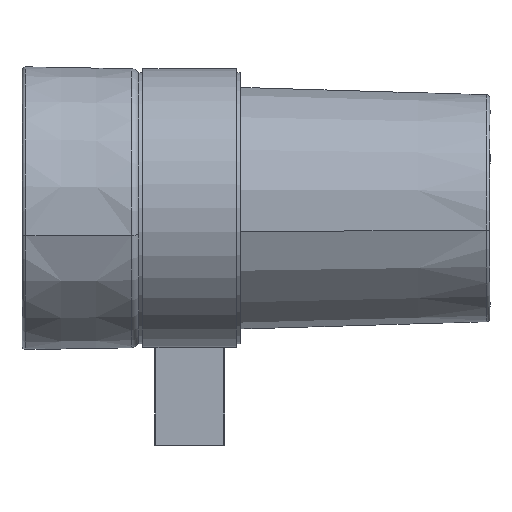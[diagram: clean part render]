
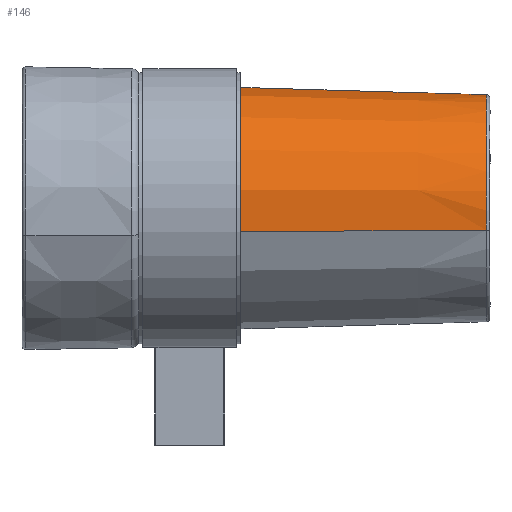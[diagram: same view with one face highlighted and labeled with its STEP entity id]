
A CAD part, left-side view. The second image highlights one B-rep face of the part: STEP entity #146.
In plain terms, the highlighted conical face has half-angle 1.7 degrees and reference radius 31.75 mm.
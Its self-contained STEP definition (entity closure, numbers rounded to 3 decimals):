
#80 = VECTOR ( 'NONE', #5271, 1000. ) ;
#146 = ADVANCED_FACE ( 'NONE', ( #2752 ), #2811, .T. ) ;
#324 = CIRCLE ( 'NONE', #4955, 31.692 ) ;
#373 = VECTOR ( 'NONE', #1821, 1000. ) ;
#428 = LINE ( 'NONE', #1439, #373 ) ;
#581 = EDGE_CURVE ( 'NONE', #4468, #3539, #4714, .T. ) ;
#715 = CARTESIAN_POINT ( 'NONE',  ( -88.284, 20.894, 53.822 ) ) ;
#741 = DIRECTION ( 'NONE',  ( 0., 1., 0. ) ) ;
#781 = CARTESIAN_POINT ( 'NONE',  ( -26.039, 22.834, 66.09 ) ) ;
#846 = CARTESIAN_POINT ( 'NONE',  ( -85.748, -66.195, 54.321 ) ) ;
#1130 = CARTESIAN_POINT ( 'NONE',  ( -57.19, 22.834, 59.95 ) ) ;
#1256 = ORIENTED_EDGE ( 'NONE', *, *, #1331, .F. ) ;
#1331 = EDGE_CURVE ( 'NONE', #4468, #2975, #428, .T. ) ;
#1367 = AXIS2_PLACEMENT_3D ( 'NONE', #3221, #741, #2389 ) ;
#1407 = ORIENTED_EDGE ( 'NONE', *, *, #581, .T. ) ;
#1439 = CARTESIAN_POINT ( 'NONE',  ( -88.341, 22.834, 53.81 ) ) ;
#1821 = DIRECTION ( 'NONE',  ( -0.029, 1., -0.006 ) ) ;
#1898 = EDGE_CURVE ( 'NONE', #3539, #3960, #3981, .T. ) ;
#2278 = EDGE_LOOP ( 'NONE', ( #1407, #2705, #3791, #1256 ) ) ;
#2389 = DIRECTION ( 'NONE',  ( -0.981, 0., -0.193 ) ) ;
#2600 = DIRECTION ( 'NONE',  ( 0.981, 0., 0.193 ) ) ;
#2671 = AXIS2_PLACEMENT_3D ( 'NONE', #1130, #4368, #2904 ) ;
#2705 = ORIENTED_EDGE ( 'NONE', *, *, #1898, .T. ) ;
#2752 = FACE_OUTER_BOUND ( 'NONE', #2278, .T. ) ;
#2811 = CONICAL_SURFACE ( 'NONE', #2671, 31.75, 0.03 ) ;
#2904 = DIRECTION ( 'NONE',  ( -0.981, 0., -0.193 ) ) ;
#2975 = VERTEX_POINT ( 'NONE', #715 ) ;
#3221 = CARTESIAN_POINT ( 'NONE',  ( -57.19, -66.195, 59.95 ) ) ;
#3539 = VERTEX_POINT ( 'NONE', #4481 ) ;
#3791 = ORIENTED_EDGE ( 'NONE', *, *, #4531, .T. ) ;
#3960 = VERTEX_POINT ( 'NONE', #4190 ) ;
#3981 = LINE ( 'NONE', #781, #80 ) ;
#4190 = CARTESIAN_POINT ( 'NONE',  ( -26.096, 20.894, 66.078 ) ) ;
#4368 = DIRECTION ( 'NONE',  ( 0., 1., 0. ) ) ;
#4468 = VERTEX_POINT ( 'NONE', #846 ) ;
#4481 = CARTESIAN_POINT ( 'NONE',  ( -28.632, -66.195, 65.579 ) ) ;
#4531 = EDGE_CURVE ( 'NONE', #3960, #2975, #324, .T. ) ;
#4604 = CARTESIAN_POINT ( 'NONE',  ( -57.19, 20.894, 59.95 ) ) ;
#4714 = CIRCLE ( 'NONE', #1367, 29.108 ) ;
#4955 = AXIS2_PLACEMENT_3D ( 'NONE', #4604, #5035, #2600 ) ;
#5035 = DIRECTION ( 'NONE',  ( 0., -1., 0. ) ) ;
#5271 = DIRECTION ( 'NONE',  ( 0.029, 1., 0.006 ) ) ;
